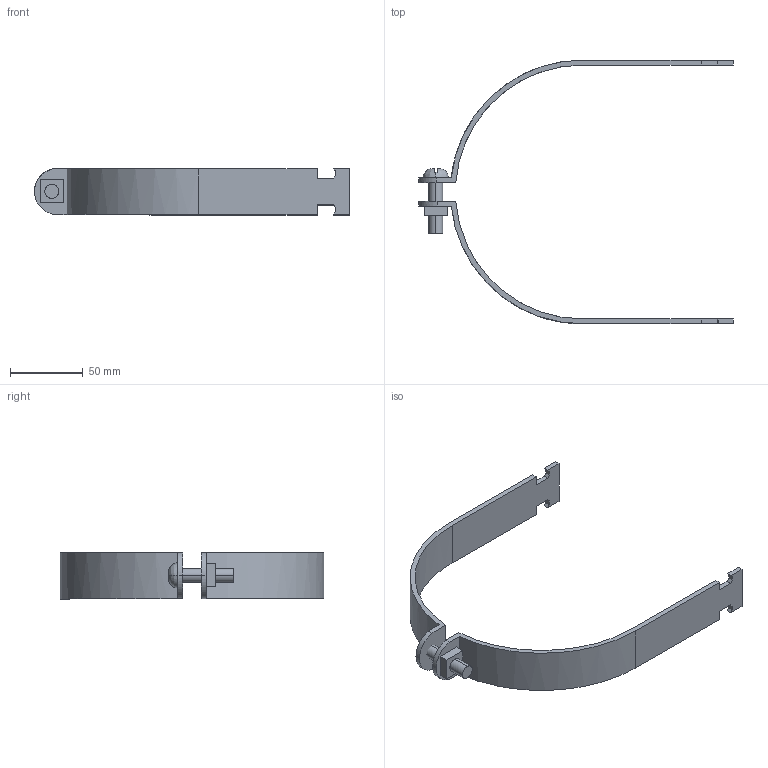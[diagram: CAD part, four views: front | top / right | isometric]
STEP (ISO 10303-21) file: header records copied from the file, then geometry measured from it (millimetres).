
FILE_DESCRIPTION(('TurboCAD Mac Pro'),'Build 980');
FILE_NAME('P2070-67.stp',' ',(''),(''),'ACIS Interop','IMSI','TurboCAD Mac Pro BY IMSI, INCORPORATED');
FILE_SCHEMA(('automotive_design'));
Length unit declared in the file: inch
Products named in the file (5): 1; 2; 3; 4; 5
Bounding box: 216.7 x 181.46 x 31.71 mm (x, y, z)
Volume: 59082.3 mm3; surface area: 38509.9 mm2
Topology: 4 solids, 4 shells, 71 faces, 186 edges, 124 vertices
Faces by surface type: plane 51, bspline 20
Entity records: 3515 total; most frequent: CARTESIAN_POINT 1082, ORIENTED_EDGE 372, DIRECTION 256, EDGE_CURVE 186, LINE 136, VECTOR 136, VERTEX_POINT 124, STYLED_ITEM 91
